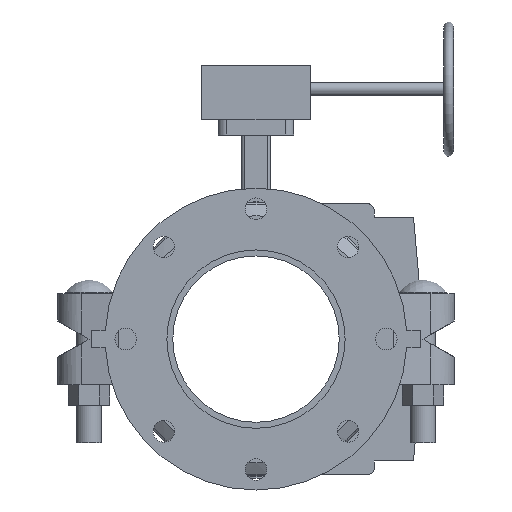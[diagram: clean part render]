
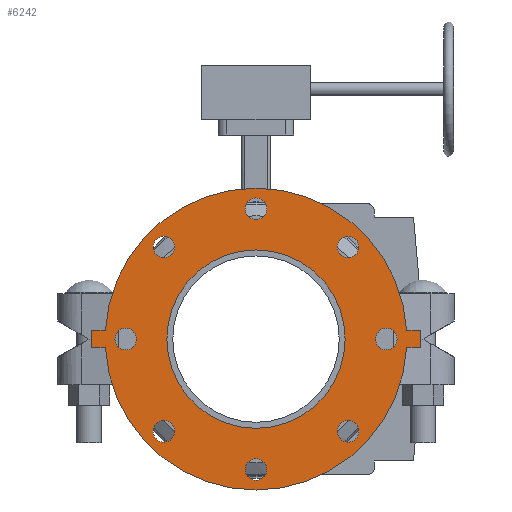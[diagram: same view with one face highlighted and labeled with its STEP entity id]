
A CAD part, front view. The second image highlights one B-rep face of the part: STEP entity #6242.
In plain terms, the highlighted planar face has unit normal (0, -1, 0) as drawn and (0, 0, -1) by its records, which use the part's own axes.
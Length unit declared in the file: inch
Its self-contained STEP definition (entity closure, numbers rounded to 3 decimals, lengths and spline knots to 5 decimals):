
#176=FACE_BOUND('',#807,.T.);
#177=FACE_BOUND('',#808,.T.);
#178=FACE_BOUND('',#809,.T.);
#179=FACE_BOUND('',#810,.T.);
#180=FACE_BOUND('',#811,.T.);
#181=FACE_BOUND('',#812,.T.);
#182=FACE_BOUND('',#813,.T.);
#183=FACE_BOUND('',#814,.T.);
#184=FACE_BOUND('',#815,.T.);
#251=PLANE('',#6780);
#462=FACE_OUTER_BOUND('',#806,.T.);
#806=EDGE_LOOP('',(#4066,#4067,#4068,#4069,#4070,#4071,#4072,#4073));
#807=EDGE_LOOP('',(#4074));
#808=EDGE_LOOP('',(#4075));
#809=EDGE_LOOP('',(#4076));
#810=EDGE_LOOP('',(#4077));
#811=EDGE_LOOP('',(#4078));
#812=EDGE_LOOP('',(#4079));
#813=EDGE_LOOP('',(#4080));
#814=EDGE_LOOP('',(#4081));
#815=EDGE_LOOP('',(#4082));
#1204=LINE('',#9463,#1672);
#1207=LINE('',#9469,#1675);
#1210=LINE('',#9474,#1678);
#1212=LINE('',#9479,#1680);
#1216=LINE('',#9486,#1684);
#1218=LINE('',#9489,#1686);
#1672=VECTOR('',#7550,0.3937);
#1675=VECTOR('',#7555,0.3937);
#1678=VECTOR('',#7560,0.3937);
#1680=VECTOR('',#7564,0.3937);
#1684=VECTOR('',#7570,0.3937);
#1686=VECTOR('',#7574,0.3937);
#2128=CIRCLE('',#6742,0.395);
#2130=CIRCLE('',#6745,0.395);
#2132=CIRCLE('',#6748,0.395);
#2134=CIRCLE('',#6751,0.395);
#2136=CIRCLE('',#6754,0.395);
#2138=CIRCLE('',#6757,0.395);
#2140=CIRCLE('',#6760,0.395);
#2142=CIRCLE('',#6763,0.395);
#2143=CIRCLE('',#6765,3.25);
#2145=CIRCLE('',#6768,5.5);
#2148=CIRCLE('',#6772,5.5);
#2482=VERTEX_POINT('',#9392);
#2484=VERTEX_POINT('',#9398);
#2486=VERTEX_POINT('',#9404);
#2488=VERTEX_POINT('',#9410);
#2490=VERTEX_POINT('',#9416);
#2492=VERTEX_POINT('',#9422);
#2494=VERTEX_POINT('',#9428);
#2496=VERTEX_POINT('',#9434);
#2497=VERTEX_POINT('',#9438);
#2499=VERTEX_POINT('',#9444);
#2501=VERTEX_POINT('',#9447);
#2503=VERTEX_POINT('',#9453);
#2506=VERTEX_POINT('',#9458);
#2507=VERTEX_POINT('',#9462);
#2509=VERTEX_POINT('',#9468);
#2511=VERTEX_POINT('',#9477);
#2512=VERTEX_POINT('',#9478);
#3089=EDGE_CURVE('',#2482,#2482,#2128,.T.);
#3092=EDGE_CURVE('',#2484,#2484,#2130,.T.);
#3095=EDGE_CURVE('',#2486,#2486,#2132,.T.);
#3098=EDGE_CURVE('',#2488,#2488,#2134,.T.);
#3101=EDGE_CURVE('',#2490,#2490,#2136,.T.);
#3104=EDGE_CURVE('',#2492,#2492,#2138,.T.);
#3107=EDGE_CURVE('',#2494,#2494,#2140,.T.);
#3110=EDGE_CURVE('',#2496,#2496,#2142,.T.);
#3111=EDGE_CURVE('',#2497,#2497,#2143,.T.);
#3115=EDGE_CURVE('',#2499,#2501,#2145,.T.);
#3121=EDGE_CURVE('',#2506,#2503,#2148,.T.);
#3122=EDGE_CURVE('',#2501,#2507,#1204,.T.);
#3125=EDGE_CURVE('',#2509,#2506,#1207,.T.);
#3128=EDGE_CURVE('',#2507,#2509,#1210,.T.);
#3130=EDGE_CURVE('',#2511,#2512,#1212,.T.);
#3134=EDGE_CURVE('',#2503,#2511,#1216,.T.);
#3136=EDGE_CURVE('',#2512,#2499,#1218,.T.);
#4066=ORIENTED_EDGE('',*,*,#3136,.F.);
#4067=ORIENTED_EDGE('',*,*,#3130,.F.);
#4068=ORIENTED_EDGE('',*,*,#3134,.F.);
#4069=ORIENTED_EDGE('',*,*,#3121,.F.);
#4070=ORIENTED_EDGE('',*,*,#3125,.F.);
#4071=ORIENTED_EDGE('',*,*,#3128,.F.);
#4072=ORIENTED_EDGE('',*,*,#3122,.F.);
#4073=ORIENTED_EDGE('',*,*,#3115,.F.);
#4074=ORIENTED_EDGE('',*,*,#3089,.T.);
#4075=ORIENTED_EDGE('',*,*,#3092,.T.);
#4076=ORIENTED_EDGE('',*,*,#3095,.T.);
#4077=ORIENTED_EDGE('',*,*,#3098,.T.);
#4078=ORIENTED_EDGE('',*,*,#3101,.T.);
#4079=ORIENTED_EDGE('',*,*,#3104,.T.);
#4080=ORIENTED_EDGE('',*,*,#3107,.T.);
#4081=ORIENTED_EDGE('',*,*,#3110,.T.);
#4082=ORIENTED_EDGE('',*,*,#3111,.T.);
#6242=ADVANCED_FACE('',(#462,#176,#177,#178,#179,#180,#181,#182,#183,#184),
#251,.F.);
#6742=AXIS2_PLACEMENT_3D('',#9394,#7474,#7475);
#6745=AXIS2_PLACEMENT_3D('',#9400,#7481,#7482);
#6748=AXIS2_PLACEMENT_3D('',#9406,#7488,#7489);
#6751=AXIS2_PLACEMENT_3D('',#9412,#7495,#7496);
#6754=AXIS2_PLACEMENT_3D('',#9418,#7502,#7503);
#6757=AXIS2_PLACEMENT_3D('',#9424,#7509,#7510);
#6760=AXIS2_PLACEMENT_3D('',#9430,#7516,#7517);
#6763=AXIS2_PLACEMENT_3D('',#9436,#7523,#7524);
#6765=AXIS2_PLACEMENT_3D('',#9439,#7527,#7528);
#6768=AXIS2_PLACEMENT_3D('',#9448,#7535,#7536);
#6772=AXIS2_PLACEMENT_3D('',#9460,#7546,#7547);
#6780=AXIS2_PLACEMENT_3D('',#9492,#7578,#7579);
#7474=DIRECTION('center_axis',(0.,0.,1.));
#7475=DIRECTION('ref_axis',(-0.707,-0.707,0.));
#7481=DIRECTION('center_axis',(0.,0.,1.));
#7482=DIRECTION('ref_axis',(-1.,0.,0.));
#7488=DIRECTION('center_axis',(0.,0.,1.));
#7489=DIRECTION('ref_axis',(-0.707,0.707,0.));
#7495=DIRECTION('center_axis',(0.,0.,1.));
#7496=DIRECTION('ref_axis',(0.,1.,0.));
#7502=DIRECTION('center_axis',(0.,0.,1.));
#7503=DIRECTION('ref_axis',(0.707,0.707,0.));
#7509=DIRECTION('center_axis',(0.,0.,1.));
#7510=DIRECTION('ref_axis',(1.,0.,0.));
#7516=DIRECTION('center_axis',(0.,0.,1.));
#7517=DIRECTION('ref_axis',(0.707,-0.707,0.));
#7523=DIRECTION('center_axis',(0.,0.,1.));
#7524=DIRECTION('ref_axis',(0.,-1.,0.));
#7527=DIRECTION('center_axis',(0.,0.,1.));
#7528=DIRECTION('ref_axis',(0.,-1.,0.));
#7535=DIRECTION('center_axis',(0.,0.,1.));
#7536=DIRECTION('ref_axis',(0.,1.,0.));
#7546=DIRECTION('center_axis',(0.,0.,1.));
#7547=DIRECTION('ref_axis',(0.,1.,0.));
#7550=DIRECTION('',(0.,-1.,0.));
#7555=DIRECTION('',(0.,1.,0.));
#7560=DIRECTION('',(1.,0.,0.));
#7564=DIRECTION('',(-1.,0.,0.));
#7570=DIRECTION('',(0.,1.,0.));
#7574=DIRECTION('',(0.,-1.,0.));
#7578=DIRECTION('center_axis',(0.,0.,1.));
#7579=DIRECTION('ref_axis',(0.,1.,0.));
#9392=CARTESIAN_POINT('',(-3.07945,3.63806,0.));
#9394=CARTESIAN_POINT('Origin',(-3.35876,3.35876,0.));
#9398=CARTESIAN_POINT('',(0.395,4.75,0.));
#9400=CARTESIAN_POINT('Origin',(0.,4.75,0.));
#9404=CARTESIAN_POINT('',(3.63806,3.07945,0.));
#9406=CARTESIAN_POINT('Origin',(3.35876,3.35876,0.));
#9410=CARTESIAN_POINT('',(4.75,-0.395,0.));
#9412=CARTESIAN_POINT('Origin',(4.75,0.,0.));
#9416=CARTESIAN_POINT('',(3.07945,-3.63806,0.));
#9418=CARTESIAN_POINT('Origin',(3.35876,-3.35876,0.));
#9422=CARTESIAN_POINT('',(-0.395,-4.75,0.));
#9424=CARTESIAN_POINT('Origin',(0.,-4.75,0.));
#9428=CARTESIAN_POINT('',(-3.63806,-3.07945,0.));
#9430=CARTESIAN_POINT('Origin',(-3.35876,-3.35876,0.));
#9434=CARTESIAN_POINT('',(-4.75,0.395,0.));
#9436=CARTESIAN_POINT('Origin',(-4.75,0.,0.));
#9438=CARTESIAN_POINT('',(0.,3.25,0.));
#9439=CARTESIAN_POINT('Origin',(0.,0.,0.));
#9444=CARTESIAN_POINT('',(-0.32,5.49068,0.));
#9447=CARTESIAN_POINT('',(-0.32,-5.49068,0.));
#9448=CARTESIAN_POINT('Origin',(0.,0.,0.));
#9453=CARTESIAN_POINT('',(0.32,5.49068,0.));
#9458=CARTESIAN_POINT('',(0.32,-5.49068,0.));
#9460=CARTESIAN_POINT('Origin',(0.,0.,0.));
#9462=CARTESIAN_POINT('',(-0.32,-6.,0.));
#9463=CARTESIAN_POINT('',(-0.32,-5.49068,0.));
#9468=CARTESIAN_POINT('',(0.32,-6.,0.));
#9469=CARTESIAN_POINT('',(0.32,-6.,0.));
#9474=CARTESIAN_POINT('',(-0.32,-6.,0.));
#9477=CARTESIAN_POINT('',(0.32,6.,0.));
#9478=CARTESIAN_POINT('',(-0.32,6.,0.));
#9479=CARTESIAN_POINT('',(0.32,6.,0.));
#9486=CARTESIAN_POINT('',(0.32,5.49068,0.));
#9489=CARTESIAN_POINT('',(-0.32,6.,0.));
#9492=CARTESIAN_POINT('Origin',(0.,5.76575,0.));
